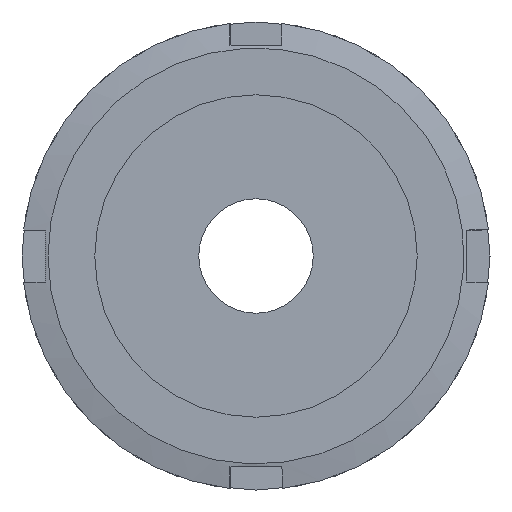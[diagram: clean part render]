
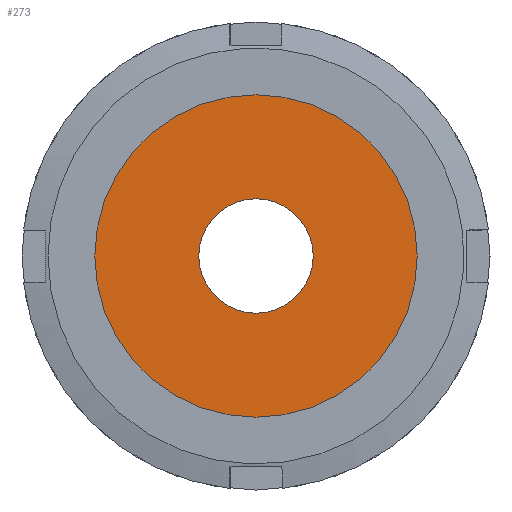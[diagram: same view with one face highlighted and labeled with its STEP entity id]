
A CAD part, left-side view. The second image highlights one B-rep face of the part: STEP entity #273.
In plain terms, the highlighted planar face has unit normal (-1, 0, 0) as drawn and (0, -1, 0) by its records, which use the part's own axes.
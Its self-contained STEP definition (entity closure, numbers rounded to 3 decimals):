
#273 = ADVANCED_FACE( '', ( #402, #403 ), #404, .T. );
#402 = FACE_OUTER_BOUND( '', #610, .T. );
#403 = FACE_BOUND( '', #611, .T. );
#404 = PLANE( '', #612 );
#610 = EDGE_LOOP( '', ( #961 ) );
#611 = EDGE_LOOP( '', ( #962 ) );
#612 = AXIS2_PLACEMENT_3D( '', #963, #964, #965 );
#961 = ORIENTED_EDGE( '', *, *, #1422, .T. );
#962 = ORIENTED_EDGE( '', *, *, #1423, .F. );
#963 = CARTESIAN_POINT( '', ( 5.5, 0., 0. ) );
#964 = DIRECTION( '', ( 0., -1., 0. ) );
#965 = DIRECTION( '', ( 0., 0., -1. ) );
#1422 = EDGE_CURVE( '', #1649, #1649, #1650, .T. );
#1423 = EDGE_CURVE( '', #1651, #1651, #1652, .T. );
#1649 = VERTEX_POINT( '', #2105 );
#1650 = CIRCLE( '', #2106, 15.5 );
#1651 = VERTEX_POINT( '', #2107 );
#1652 = CIRCLE( '', #2108, 5.5 );
#2105 = CARTESIAN_POINT( '', ( 0., 0., -15.5 ) );
#2106 = AXIS2_PLACEMENT_3D( '', #2580, #2581, #2582 );
#2107 = CARTESIAN_POINT( '', ( 0., 0., -5.5 ) );
#2108 = AXIS2_PLACEMENT_3D( '', #2583, #2584, #2585 );
#2580 = CARTESIAN_POINT( '', ( 0., 0., 0. ) );
#2581 = DIRECTION( '', ( 0., -1., 0. ) );
#2582 = DIRECTION( '', ( 0., 0., -1. ) );
#2583 = CARTESIAN_POINT( '', ( 0., 0., 0. ) );
#2584 = DIRECTION( '', ( 0., -1., 0. ) );
#2585 = DIRECTION( '', ( 0., 0., -1. ) );
